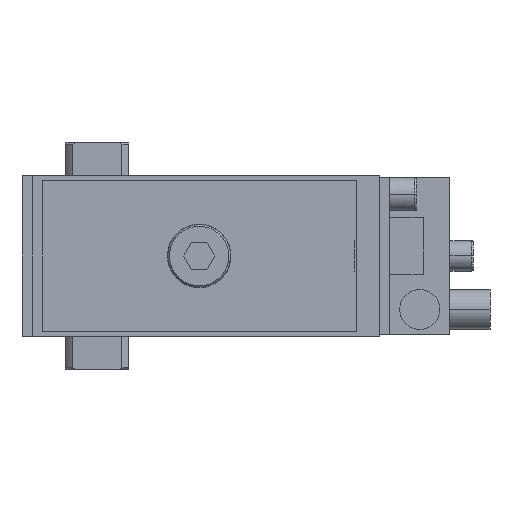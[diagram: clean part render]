
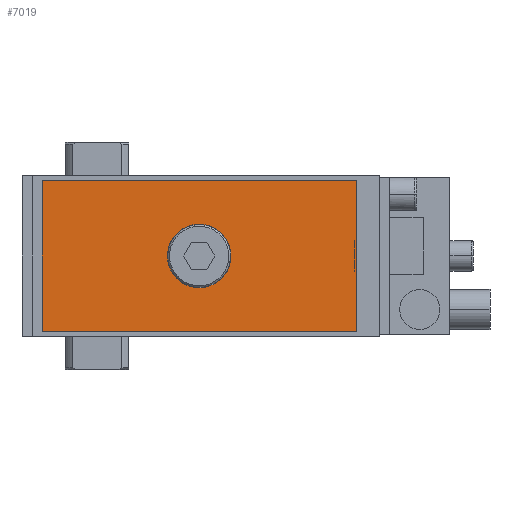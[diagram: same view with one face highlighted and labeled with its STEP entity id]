
A CAD part, left-side view. The second image highlights one B-rep face of the part: STEP entity #7019.
In plain terms, the highlighted planar face has unit normal (-1, 0, 0).
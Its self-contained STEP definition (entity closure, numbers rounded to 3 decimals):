
#56 = FACE_BOUND ( 'NONE', #311, .T. ) ;
#150 = DIRECTION ( 'NONE',  ( 0., 0., 1. ) ) ;
#172 = VERTEX_POINT ( 'NONE', #3224 ) ;
#311 = EDGE_LOOP ( 'NONE', ( #4795, #8207 ) ) ;
#434 = VECTOR ( 'NONE', #932, 1000. ) ;
#666 = DIRECTION ( 'NONE',  ( 0., -1., 0. ) ) ;
#780 = CARTESIAN_POINT ( 'NONE',  ( -269.5, -38.837, -4.555 ) ) ;
#932 = DIRECTION ( 'NONE',  ( 0., 0., 1. ) ) ;
#1380 = DIRECTION ( 'NONE',  ( -1., 0., 0. ) ) ;
#1847 = LINE ( 'NONE', #1904, #2544 ) ;
#1904 = CARTESIAN_POINT ( 'NONE',  ( -269.5, -77.5, 11.25 ) ) ;
#2025 = EDGE_LOOP ( 'NONE', ( #5285, #4112, #8123, #3473, #5450 ) ) ;
#2110 = EDGE_CURVE ( 'NONE', #3472, #2497, #4546, .T. ) ;
#2352 = CARTESIAN_POINT ( 'NONE',  ( -269.5, -77.5, 0. ) ) ;
#2497 = VERTEX_POINT ( 'NONE', #2352 ) ;
#2544 = VECTOR ( 'NONE', #4743, 1000. ) ;
#2552 = CIRCLE ( 'NONE', #4933, 9.5 ) ;
#2934 = EDGE_CURVE ( 'NONE', #8831, #4041, #7089, .T. ) ;
#3020 = LINE ( 'NONE', #3766, #5070 ) ;
#3073 = AXIS2_PLACEMENT_3D ( 'NONE', #5490, #4180, #9115 ) ;
#3138 = CARTESIAN_POINT ( 'NONE',  ( -269.5, -77.5, -11.25 ) ) ;
#3224 = CARTESIAN_POINT ( 'NONE',  ( -269.5, 16.5, 22.5 ) ) ;
#3272 = EDGE_CURVE ( 'NONE', #3810, #172, #6820, .T. ) ;
#3472 = VERTEX_POINT ( 'NONE', #3930 ) ;
#3473 = ORIENTED_EDGE ( 'NONE', *, *, #5403, .T. ) ;
#3593 = DIRECTION ( 'NONE',  ( -1., 0., 0. ) ) ;
#3689 = EDGE_CURVE ( 'NONE', #2497, #3810, #1847, .T. ) ;
#3766 = CARTESIAN_POINT ( 'NONE',  ( -269.5, 16.5, 0. ) ) ;
#3783 = EDGE_CURVE ( 'NONE', #4041, #8831, #2552, .T. ) ;
#3810 = VERTEX_POINT ( 'NONE', #8951 ) ;
#3827 = VECTOR ( 'NONE', #7704, 1000. ) ;
#3845 = EDGE_CURVE ( 'NONE', #172, #8177, #3020, .T. ) ;
#3930 = CARTESIAN_POINT ( 'NONE',  ( -269.5, -77.5, -22.5 ) ) ;
#4041 = VERTEX_POINT ( 'NONE', #7717 ) ;
#4112 = ORIENTED_EDGE ( 'NONE', *, *, #3272, .T. ) ;
#4180 = DIRECTION ( 'NONE',  ( -1., 0., 0. ) ) ;
#4200 = FACE_OUTER_BOUND ( 'NONE', #2025, .T. ) ;
#4546 = LINE ( 'NONE', #3138, #434 ) ;
#4743 = DIRECTION ( 'NONE',  ( 0., 0., 1. ) ) ;
#4795 = ORIENTED_EDGE ( 'NONE', *, *, #2934, .F. ) ;
#4933 = AXIS2_PLACEMENT_3D ( 'NONE', #7605, #1380, #6850 ) ;
#5070 = VECTOR ( 'NONE', #8026, 1000. ) ;
#5267 = AXIS2_PLACEMENT_3D ( 'NONE', #6466, #3593, #150 ) ;
#5285 = ORIENTED_EDGE ( 'NONE', *, *, #3689, .T. ) ;
#5343 = CARTESIAN_POINT ( 'NONE',  ( -269.5, 16.5, -22.5 ) ) ;
#5403 = EDGE_CURVE ( 'NONE', #8177, #3472, #8598, .T. ) ;
#5450 = ORIENTED_EDGE ( 'NONE', *, *, #2110, .T. ) ;
#5490 = CARTESIAN_POINT ( 'NONE',  ( -269.5, -30.5, 0. ) ) ;
#6466 = CARTESIAN_POINT ( 'NONE',  ( -269.5, 0., 0. ) ) ;
#6601 = VECTOR ( 'NONE', #666, 1000. ) ;
#6820 = LINE ( 'NONE', #8233, #3827 ) ;
#6850 = DIRECTION ( 'NONE',  ( 0., -1., 0. ) ) ;
#7009 = CARTESIAN_POINT ( 'NONE',  ( -269.5, -30.5, -22.5 ) ) ;
#7019 = ADVANCED_FACE ( 'NONE', ( #4200, #56 ), #8490, .T. ) ;
#7089 = CIRCLE ( 'NONE', #3073, 9.5 ) ;
#7605 = CARTESIAN_POINT ( 'NONE',  ( -269.5, -30.5, 0. ) ) ;
#7704 = DIRECTION ( 'NONE',  ( 0., 1., 0. ) ) ;
#7717 = CARTESIAN_POINT ( 'NONE',  ( -269.5, -22.163, 4.555 ) ) ;
#8026 = DIRECTION ( 'NONE',  ( 0., 0., -1. ) ) ;
#8123 = ORIENTED_EDGE ( 'NONE', *, *, #3845, .T. ) ;
#8177 = VERTEX_POINT ( 'NONE', #5343 ) ;
#8207 = ORIENTED_EDGE ( 'NONE', *, *, #3783, .F. ) ;
#8233 = CARTESIAN_POINT ( 'NONE',  ( -269.5, -30.5, 22.5 ) ) ;
#8490 = PLANE ( 'NONE',  #5267 ) ;
#8598 = LINE ( 'NONE', #7009, #6601 ) ;
#8831 = VERTEX_POINT ( 'NONE', #780 ) ;
#8951 = CARTESIAN_POINT ( 'NONE',  ( -269.5, -77.5, 22.5 ) ) ;
#9115 = DIRECTION ( 'NONE',  ( 0., -1., 0. ) ) ;
